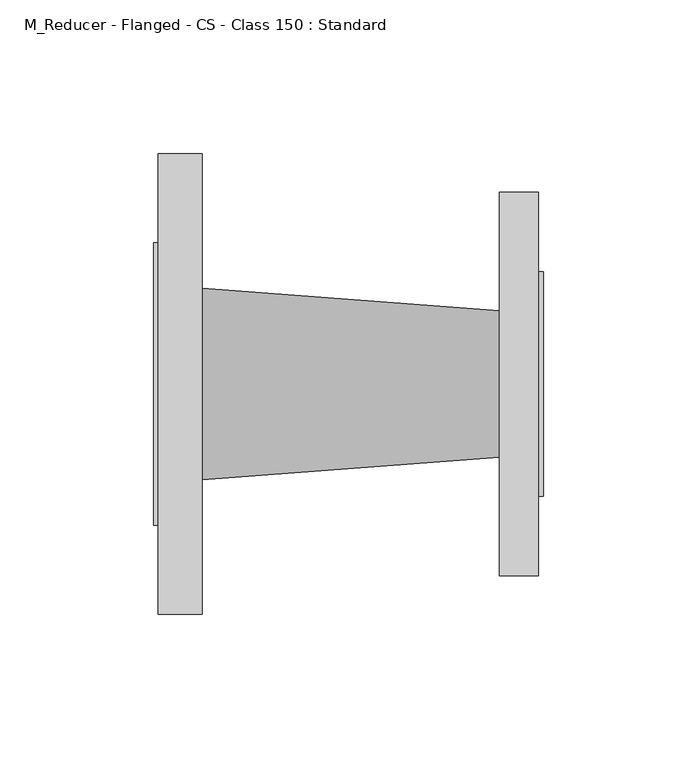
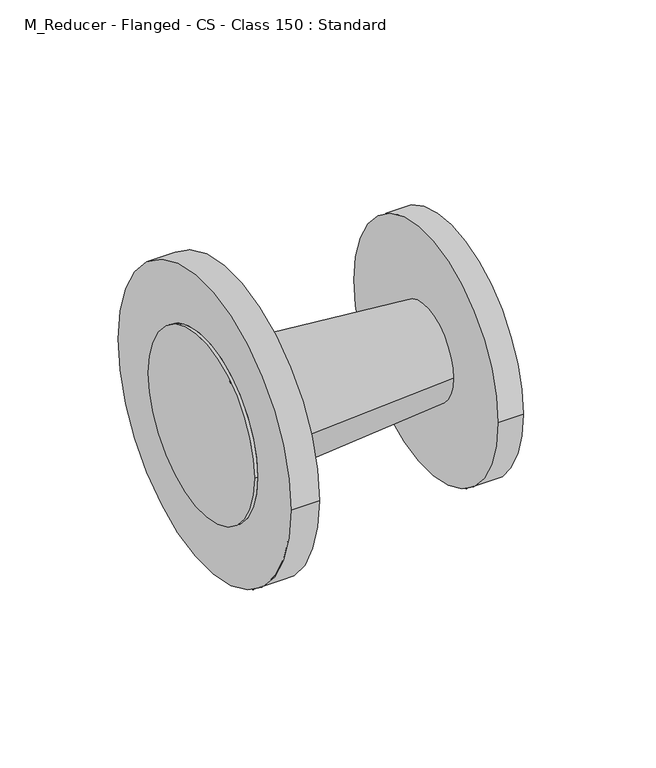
"""IFC4 building model written with IfcOpenShell, lengths in millimetres: pipe fitting geometry, M_Reducer - Flanged - CS - Class 150 : Standard."""

from ifc_helpers import new_model, si_unit, frame, origin, place, context, project, spatial, polyline, circle_curve, source, transform, mapped, element, save
from ifc_brep_helpers import plane_surface, cylinder_surface, revolved_surface, advanced_brep


def m_reducer_flanged_cs_class_150_standard_3ab32b2b(model_context):
    return source(origin(), model_context, "Body", "AdvancedBrep", [
        advanced_brep(
        [(15.8875, -75.0, 0.0), (15.8875, 75.0, 0.0), (15.8875, 31.1, 0.0), (15.8875, -31.1, 0.0), (1.5875, -75.0, 0.0), (1.5875, 75.0, 0.0), (1.5875, -46.05, 0.0), (1.5875, 46.05, 0.0), (112.7125, 23.8, 0.0), (112.7125, -23.8, 0.0), (125.4125, -62.5, 0.0), (125.4125, 62.5, 0.0), (125.4125, 36.5, 0.0), (125.4125, -36.5, 0.0), (112.7125, -62.5, 0.0), (112.7125, 62.5, 0.0), (0.0, -46.05, 0.0), (0.0, 46.05, 0.0), (127.0, -36.5, 0.0), (127.0, 36.5, 0.0)],
        [
            (0, 1, circle_curve(frame((15.8875, 0.0, 0.0), z_axis=(1.0, 0.0, 0.0), x_axis=(0.0, 1.0, 0.0)), 75.0)),
            (1, 0, circle_curve(frame((15.8875, 0.0, 0.0), z_axis=(1.0, 0.0, 0.0), x_axis=(0.0, 1.0, 0.0)), 75.0)),
            (2, 3, circle_curve(frame((15.8875, 0.0, 0.0), z_axis=(-1.0, 0.0, 0.0), x_axis=(0.0, -1.0, 0.0)), 31.1)),
            (3, 2, circle_curve(frame((15.8875, 0.0, 0.0), z_axis=(-1.0, 0.0, 0.0), x_axis=(0.0, 1.0, 0.0)), 31.1)),
            (4, 5, circle_curve(frame((1.5875, 0.0, 0.0), z_axis=(-1.0, 0.0, 0.0), x_axis=(0.0, 1.0, 0.0)), 75.0)),
            (5, 4, circle_curve(frame((1.5875, 0.0, 0.0), z_axis=(-1.0, 0.0, 0.0), x_axis=(0.0, 1.0, 0.0)), 75.0)),
            (6, 7, circle_curve(frame((1.5875, 0.0, 0.0), z_axis=(1.0, 0.0, 0.0), x_axis=(0.0, 1.0, 0.0)), 46.05)),
            (7, 6, circle_curve(frame((1.5875, 0.0, 0.0), z_axis=(1.0, 0.0, 0.0), x_axis=(0.0, 1.0, 0.0)), 46.05)),
            (0, 4),
            (5, 1),
            (2, 8),
            (8, 9, circle_curve(frame((112.7125, 0.0, 0.0), z_axis=(-1.0, 0.0, 0.0), x_axis=(0.0, -1.0, 0.0)), 23.8)),
            (9, 3),
            (9, 8, circle_curve(frame((112.7125, 0.0, 0.0), z_axis=(-1.0, 0.0, 0.0), x_axis=(0.0, 1.0, 0.0)), 23.8)),
            (10, 11, circle_curve(frame((125.4125, 0.0, 0.0), z_axis=(1.0, 0.0, 0.0), x_axis=(0.0, 1.0, 0.0)), 62.5)),
            (11, 10, circle_curve(frame((125.4125, 0.0, 0.0), z_axis=(1.0, 0.0, 0.0), x_axis=(0.0, 1.0, 0.0)), 62.5)),
            (12, 13, circle_curve(frame((125.4125, 0.0, 0.0), z_axis=(-1.0, 0.0, 0.0), x_axis=(0.0, 1.0, 0.0)), 36.5)),
            (13, 12, circle_curve(frame((125.4125, 0.0, 0.0), z_axis=(-1.0, 0.0, 0.0), x_axis=(0.0, 1.0, 0.0)), 36.5)),
            (14, 15, circle_curve(frame((112.7125, 0.0, 0.0), z_axis=(-1.0, 0.0, 0.0), x_axis=(0.0, 1.0, 0.0)), 62.5)),
            (15, 14, circle_curve(frame((112.7125, 0.0, 0.0), z_axis=(-1.0, 0.0, 0.0), x_axis=(0.0, 1.0, 0.0)), 62.5)),
            (10, 14),
            (15, 11),
            (16, 17, circle_curve(frame((0.0, 0.0, 0.0), z_axis=(-1.0, 0.0, 0.0), x_axis=(0.0, 1.0, 0.0)), 46.05)),
            (17, 16, circle_curve(frame((0.0, 0.0, 0.0), z_axis=(-1.0, 0.0, 0.0), x_axis=(0.0, 1.0, 0.0)), 46.05)),
            (17, 7),
            (6, 16),
            (18, 19, circle_curve(frame((127.0, 0.0, 0.0), z_axis=(1.0, 0.0, 0.0), x_axis=(0.0, 1.0, 0.0)), 36.5)),
            (19, 18, circle_curve(frame((127.0, 0.0, 0.0), z_axis=(1.0, 0.0, 0.0), x_axis=(0.0, 1.0, 0.0)), 36.5)),
            (18, 13),
            (12, 19),
        ],
        [
            plane_surface(frame((15.8875, 75.0, 0.0), z_axis=(1.0, 0.0, 0.0), x_axis=(0.0, 0.0, 1.0))),
            plane_surface(frame((1.5875, 75.0, 0.0), z_axis=(-1.0, 0.0, 0.0), x_axis=(0.0, 0.0, -1.0))),
            cylinder_surface(frame((1.5875, 0.0, 0.0), z_axis=(1.0, 0.0, 0.0), x_axis=(0.0, 1.0, 0.0)), 75.0),
            revolved_surface(polyline([(112.71250000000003, 23.80000000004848, 0.0), (15.887499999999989, 31.1, 0.0)]), (428.3885274, 0.0, 0.0), (-1.0, 0.0, 0.0)),
            plane_surface(frame((125.4125, 62.5, 0.0), z_axis=(1.0, 0.0, 0.0), x_axis=(0.0, 0.0, 1.0))),
            plane_surface(frame((112.7125, 62.5, 0.0), z_axis=(-1.0, 0.0, 0.0), x_axis=(0.0, 0.0, -1.0))),
            cylinder_surface(frame((112.7125, 0.0, 0.0), z_axis=(1.0, 0.0, 0.0), x_axis=(0.0, 1.0, 0.0)), 62.5),
            plane_surface(frame((0.0, 46.05, 0.0), z_axis=(-1.0, 0.0, 0.0), x_axis=(0.0, 0.0, -1.0))),
            cylinder_surface(frame((0.0, 0.0, 0.0), z_axis=(1.0, 0.0, 0.0), x_axis=(0.0, 1.0, 0.0)), 46.05),
            plane_surface(frame((127.0, 36.5, 0.0), z_axis=(1.0, 0.0, 0.0), x_axis=(0.0, 0.0, 1.0))),
            cylinder_surface(frame((125.4125, 0.0, 0.0), z_axis=(1.0, 0.0, 0.0), x_axis=(0.0, 1.0, 0.0)), 36.5),
        ],
        [
            (0, [[1, 2], [3, 4]]),
            (1, [[5, 6], [7, 8]]),
            (2, [[-1, 9, -6, 10]]),
            (2, [[-2, -10, -5, -9]]),
            (3, [[11, 12, 13, -3]]),
            (3, [[-11, -4, -13, 14]]),
            (4, [[15, 16], [17, 18]]),
            (5, [[19, 20], [-12, -14]]),
            (6, [[-15, 21, -20, 22]]),
            (6, [[-16, -22, -19, -21]]),
            (7, [[23, 24]]),
            (8, [[-24, 25, -7, 26]]),
            (8, [[-23, -26, -8, -25]]),
            (9, [[27, 28]]),
            (10, [[-27, 29, -17, 30]]),
            (10, [[-28, -30, -18, -29]]),
        ],
    ),
    ])


if __name__ == "__main__":
    model = new_model("IFC4")
    model_context = context("Model", 3, world=origin())
    ifc_project = project(units=[si_unit("LENGTHUNIT", "METRE", prefix="MILLI")], contexts=[model_context])
    site = spatial("IfcSite", under=ifc_project)
    building = spatial("IfcBuilding", under=site)
    placement = place(None, origin())
    m_reducer_flanged_cs_class_150_standard_shape = m_reducer_flanged_cs_class_150_standard_3ab32b2b(model_context)
    element("IfcPipeFitting", 1, ObjectType="M_Reducer - Flanged - CS - Class 150 : Standard", at=placement, inside=building, context=model_context, shape_type="MappedRepresentation", body=[
        mapped(m_reducer_flanged_cs_class_150_standard_shape, transform((0.0, 0.0, 0.0), x_axis=(1.0, 0.0, 0.0), y_axis=(0.0, 1.0, 0.0), z_axis=(0.0, 0.0, 1.0))),
    ])
    save(model, "model.ifc")
